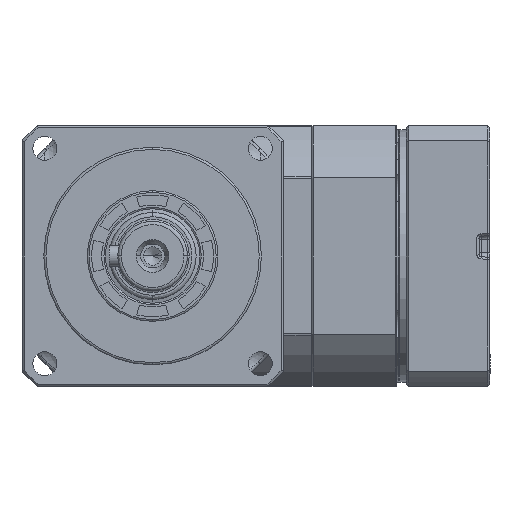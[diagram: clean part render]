
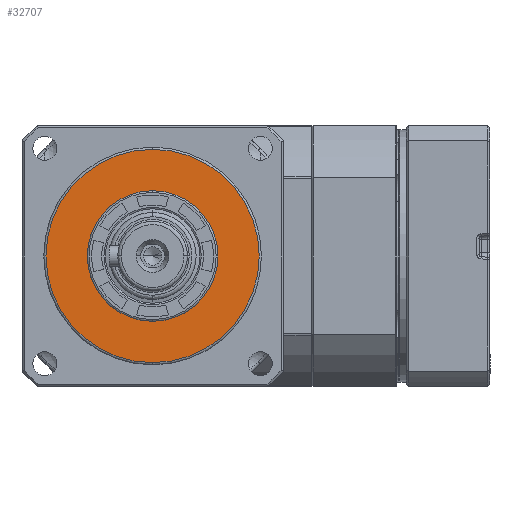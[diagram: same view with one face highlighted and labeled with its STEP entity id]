
A CAD part, left-side view. The second image highlights one B-rep face of the part: STEP entity #32707.
In plain terms, the highlighted planar face has unit normal (-1, 0, 0).
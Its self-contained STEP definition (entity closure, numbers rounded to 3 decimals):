
#178 = VERTEX_POINT ( 'NONE', #27403 ) ;
#971 = ORIENTED_EDGE ( 'NONE', *, *, #25900, .F. ) ;
#1768 = CARTESIAN_POINT ( 'NONE',  ( 2., 21.693, 0. ) ) ;
#2474 = AXIS2_PLACEMENT_3D ( 'NONE', #1768, #31423, #6079 ) ;
#2617 = CIRCLE ( 'NONE', #28847, 24.5 ) ;
#3001 = AXIS2_PLACEMENT_3D ( 'NONE', #48996, #24020, #53209 ) ;
#4595 = ORIENTED_EDGE ( 'NONE', *, *, #47239, .F. ) ;
#5001 = FACE_OUTER_BOUND ( 'NONE', #11502, .T. ) ;
#5527 = CIRCLE ( 'NONE', #28565, 15. ) ;
#6079 = DIRECTION ( 'NONE',  ( 0., 0., -1. ) ) ;
#9180 = VERTEX_POINT ( 'NONE', #36755 ) ;
#10328 = CARTESIAN_POINT ( 'NONE',  ( 2., 0., 0. ) ) ;
#11502 = EDGE_LOOP ( 'NONE', ( #19691, #39222 ) ) ;
#14630 = DIRECTION ( 'NONE',  ( 0., 0., 1. ) ) ;
#14839 = CIRCLE ( 'NONE', #28458, 24.5 ) ;
#16706 = CIRCLE ( 'NONE', #3001, 15. ) ;
#18281 = VERTEX_POINT ( 'NONE', #44753 ) ;
#18388 = VERTEX_POINT ( 'NONE', #32688 ) ;
#19691 = ORIENTED_EDGE ( 'NONE', *, *, #45616, .F. ) ;
#19886 = DIRECTION ( 'NONE',  ( 1., 0., 0. ) ) ;
#20654 = EDGE_LOOP ( 'NONE', ( #971, #4595 ) ) ;
#22241 = DIRECTION ( 'NONE',  ( -1., 0., 0. ) ) ;
#24020 = DIRECTION ( 'NONE',  ( -1., 0., 0. ) ) ;
#25900 = EDGE_CURVE ( 'NONE', #178, #18388, #5527, .T. ) ;
#27403 = CARTESIAN_POINT ( 'NONE',  ( 2., 0., 15. ) ) ;
#28458 = AXIS2_PLACEMENT_3D ( 'NONE', #44989, #19886, #49140 ) ;
#28565 = AXIS2_PLACEMENT_3D ( 'NONE', #47276, #22241, #51429 ) ;
#28847 = AXIS2_PLACEMENT_3D ( 'NONE', #10328, #39782, #14630 ) ;
#31423 = DIRECTION ( 'NONE',  ( 1., 0., 0. ) ) ;
#32688 = CARTESIAN_POINT ( 'NONE',  ( 2., 0., -15. ) ) ;
#32707 = ADVANCED_FACE ( 'NONE', ( #37369, #5001 ), #51988, .F. ) ;
#36755 = CARTESIAN_POINT ( 'NONE',  ( 2., 0., 24.5 ) ) ;
#37369 = FACE_BOUND ( 'NONE', #20654, .T. ) ;
#39222 = ORIENTED_EDGE ( 'NONE', *, *, #44880, .F. ) ;
#39782 = DIRECTION ( 'NONE',  ( 1., 0., 0. ) ) ;
#44753 = CARTESIAN_POINT ( 'NONE',  ( 2., 0., -24.5 ) ) ;
#44880 = EDGE_CURVE ( 'NONE', #18281, #9180, #14839, .T. ) ;
#44989 = CARTESIAN_POINT ( 'NONE',  ( 2., 0., 0. ) ) ;
#45616 = EDGE_CURVE ( 'NONE', #9180, #18281, #2617, .T. ) ;
#47239 = EDGE_CURVE ( 'NONE', #18388, #178, #16706, .T. ) ;
#47276 = CARTESIAN_POINT ( 'NONE',  ( 2., 0., 0. ) ) ;
#48996 = CARTESIAN_POINT ( 'NONE',  ( 2., 0., 0. ) ) ;
#49140 = DIRECTION ( 'NONE',  ( 0., 0., 1. ) ) ;
#51429 = DIRECTION ( 'NONE',  ( 0., 0., 1. ) ) ;
#51988 = PLANE ( 'NONE',  #2474 ) ;
#53209 = DIRECTION ( 'NONE',  ( 0., 0., 1. ) ) ;
